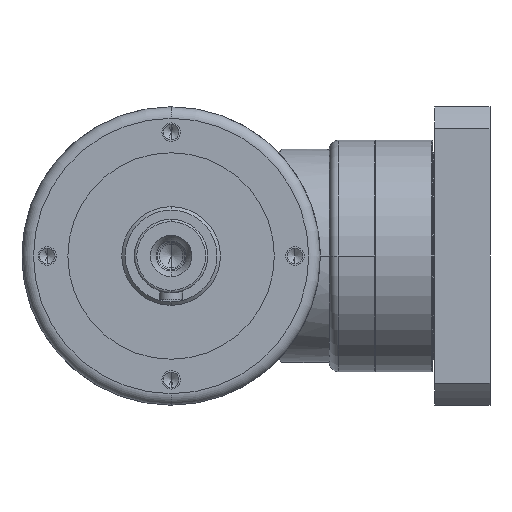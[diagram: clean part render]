
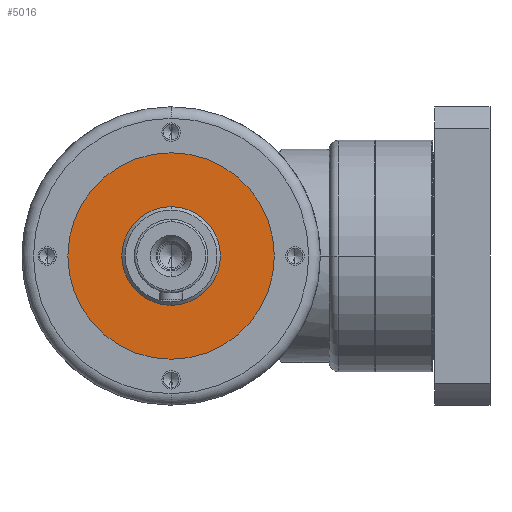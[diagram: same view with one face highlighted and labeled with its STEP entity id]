
A CAD part, left-side view. The second image highlights one B-rep face of the part: STEP entity #5016.
In plain terms, the highlighted planar face has unit normal (-1, 0, 0).
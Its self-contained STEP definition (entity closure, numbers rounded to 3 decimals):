
#4302=CARTESIAN_POINT('',(-17.5,0.,0.));
#4303=DIRECTION('',(-1.,0.,0.));
#4304=DIRECTION('',(0.,1.,0.));
#4305=AXIS2_PLACEMENT_3D('',#4302,#4303,#4304);
#4307=CARTESIAN_POINT('',(-17.5,0.,0.));
#4308=DIRECTION('',(1.,0.,0.));
#4309=DIRECTION('',(0.,1.,0.));
#4310=AXIS2_PLACEMENT_3D('',#4307,#4308,#4309);
#4312=CARTESIAN_POINT('',(-17.5,0.,0.));
#4313=DIRECTION('',(1.,0.,0.));
#4314=DIRECTION('',(0.,1.,0.));
#4315=AXIS2_PLACEMENT_3D('',#4312,#4313,#4314);
#4325=CARTESIAN_POINT('',(-17.5,0.,0.));
#4326=DIRECTION('',(-1.,0.,0.));
#4327=DIRECTION('',(0.,1.,0.));
#4328=AXIS2_PLACEMENT_3D('',#4325,#4326,#4327);
#4653=CARTESIAN_POINT('',(-17.5,45.,0.));
#4655=VERTEX_POINT('',#4653);
#4656=CARTESIAN_POINT('',(-17.5,21.5,0.));
#4658=VERTEX_POINT('',#4656);
#4661=CARTESIAN_POINT('',(-17.5,-45.,0.));
#4663=VERTEX_POINT('',#4661);
#4664=CARTESIAN_POINT('',(-17.5,-21.5,0.));
#4666=VERTEX_POINT('',#4664);
#5001=CARTESIAN_POINT('',(-17.5,0.,0.));
#5002=DIRECTION('',(1.,0.,0.));
#5003=DIRECTION('',(0.,-1.,0.));
#5004=AXIS2_PLACEMENT_3D('',#5001,#5002,#5003);
#5005=PLANE('',#5004);
#5006=ORIENTED_EDGE('',*,*,#4994,.F.);
#5007=ORIENTED_EDGE('',*,*,#4983,.T.);
#5008=EDGE_LOOP('',(#5006,#5007));
#5009=FACE_OUTER_BOUND('',#5008,.F.);
#5011=ORIENTED_EDGE('',*,*,#5010,.F.);
#5013=ORIENTED_EDGE('',*,*,#5012,.T.);
#5014=EDGE_LOOP('',(#5011,#5013));
#5015=FACE_BOUND('',#5014,.F.);
#5016=ADVANCED_FACE('',(#5009,#5015),#5005,.F.);
#4306=CIRCLE('',#4305,45.);
#4311=CIRCLE('',#4310,45.);
#4316=CIRCLE('',#4315,21.5);
#4329=CIRCLE('',#4328,21.5);
#4983=EDGE_CURVE('',#4655,#4663,#4311,.T.);
#4994=EDGE_CURVE('',#4655,#4663,#4306,.T.);
#5010=EDGE_CURVE('',#4658,#4666,#4316,.T.);
#5012=EDGE_CURVE('',#4658,#4666,#4329,.T.);
